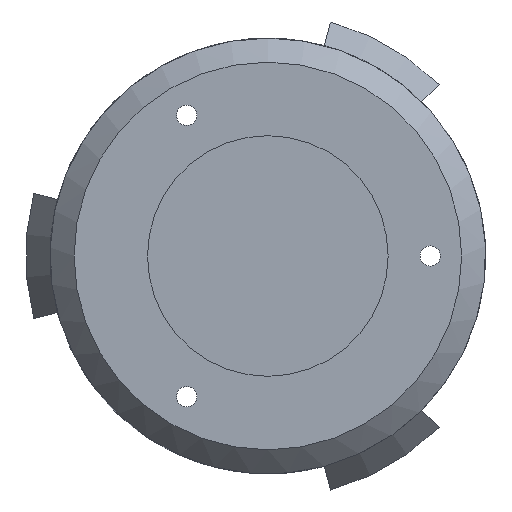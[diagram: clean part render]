
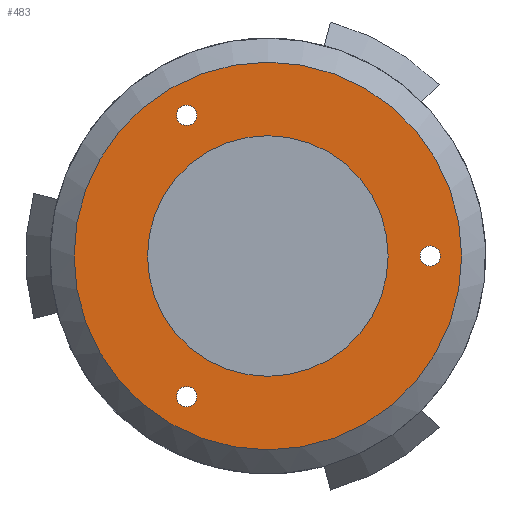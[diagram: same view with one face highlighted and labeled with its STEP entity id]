
A CAD part, front view. The second image highlights one B-rep face of the part: STEP entity #483.
In plain terms, the highlighted planar face has unit normal (0, -1, 0).
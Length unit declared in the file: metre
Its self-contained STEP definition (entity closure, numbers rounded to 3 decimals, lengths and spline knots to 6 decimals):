
#12=PLANE('',#537);
#108=ORIENTED_EDGE('',*,*,#235,.F.);
#109=ORIENTED_EDGE('',*,*,#236,.T.);
#110=ORIENTED_EDGE('',*,*,#237,.T.);
#111=ORIENTED_EDGE('',*,*,#238,.T.);
#112=ORIENTED_EDGE('',*,*,#234,.T.);
#234=EDGE_CURVE('',#298,#298,#338,.F.);
#235=EDGE_CURVE('',#299,#299,#339,.T.);
#236=EDGE_CURVE('',#300,#300,#340,.T.);
#237=EDGE_CURVE('',#301,#301,#341,.T.);
#238=EDGE_CURVE('',#302,#302,#342,.T.);
#298=VERTEX_POINT('',#790);
#299=VERTEX_POINT('',#793);
#300=VERTEX_POINT('',#795);
#301=VERTEX_POINT('',#797);
#302=VERTEX_POINT('',#799);
#338=CIRCLE('',#536,0.060618);
#339=CIRCLE('',#538,0.037636);
#340=CIRCLE('',#539,0.003175);
#341=CIRCLE('',#540,0.003175);
#342=CIRCLE('',#541,0.003175);
#369=EDGE_LOOP('',(#108));
#370=EDGE_LOOP('',(#109));
#371=EDGE_LOOP('',(#110));
#372=EDGE_LOOP('',(#111));
#373=EDGE_LOOP('',(#112));
#421=FACE_BOUND('',#369,.T.);
#422=FACE_BOUND('',#370,.T.);
#423=FACE_BOUND('',#371,.T.);
#424=FACE_BOUND('',#372,.T.);
#425=FACE_BOUND('',#373,.T.);
#483=ADVANCED_FACE('',(#421,#422,#423,#424,#425),#12,.F.);
#536=AXIS2_PLACEMENT_3D('',#789,#620,#621);
#537=AXIS2_PLACEMENT_3D('',#791,#622,#623);
#538=AXIS2_PLACEMENT_3D('',#792,#624,#625);
#539=AXIS2_PLACEMENT_3D('',#794,#626,#627);
#540=AXIS2_PLACEMENT_3D('',#796,#628,#629);
#541=AXIS2_PLACEMENT_3D('',#798,#630,#631);
#620=DIRECTION('',(0.,1.,0.));
#621=DIRECTION('',(0.,0.,1.));
#622=DIRECTION('',(0.,1.,0.));
#623=DIRECTION('',(0.,0.,1.));
#624=DIRECTION('',(0.,-1.,0.));
#625=DIRECTION('',(0.,0.,-1.));
#626=DIRECTION('',(0.,1.,0.));
#627=DIRECTION('',(0.,0.,1.));
#628=DIRECTION('',(0.,1.,0.));
#629=DIRECTION('',(0.,0.,1.));
#630=DIRECTION('',(0.,1.,0.));
#631=DIRECTION('',(0.,0.,1.));
#789=CARTESIAN_POINT('',(0.,-0.01855,0.));
#790=CARTESIAN_POINT('',(0.,-0.01855,0.060618));
#791=CARTESIAN_POINT('',(0.,-0.01855,-0.052298));
#792=CARTESIAN_POINT('',(0.,-0.01855,0.));
#793=CARTESIAN_POINT('',(0.,-0.01855,-0.037636));
#794=CARTESIAN_POINT('',(-0.0254,-0.01855,0.043994));
#795=CARTESIAN_POINT('',(-0.0254,-0.01855,0.047169));
#796=CARTESIAN_POINT('',(-0.0254,-0.01855,-0.043994));
#797=CARTESIAN_POINT('',(-0.0254,-0.01855,-0.040819));
#798=CARTESIAN_POINT('',(0.0508,-0.01855,0.));
#799=CARTESIAN_POINT('',(0.0508,-0.01855,0.003175));
